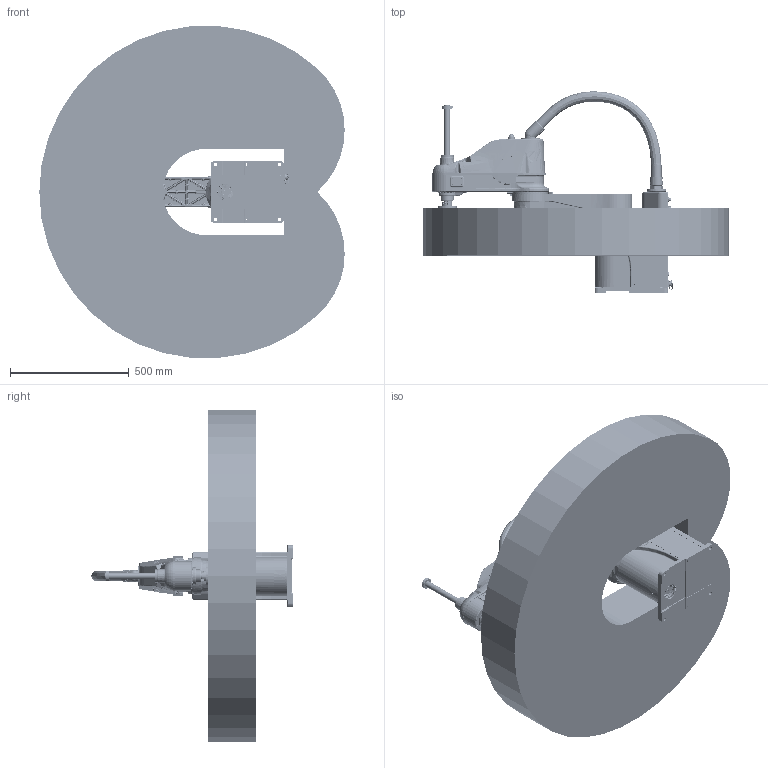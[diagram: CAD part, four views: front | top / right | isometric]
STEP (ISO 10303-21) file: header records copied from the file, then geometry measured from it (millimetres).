
FILE_DESCRIPTION (( 'STEP AP203' ), '1' );
FILE_NAME ('AH10-0700-0204-2000_V1.2.0.STEP', '2022-01-12T02:15:45', ( '' ), ( '' ), 'SwSTEP 2.0', 'SolidWorks 2017', '' );
FILE_SCHEMA (( 'CONFIG_CONTROL_DESIGN' ));
Products named in the file (7): AH10-0700-0204-2000-T6_V1.2.0; AH10-0700-0204-2000_V1.2.0; AH10-0700-0204-2000-T1_V1.2.0; AH10-0700-0204-2000-T3_V1.2.0; AH10-0700-0204-2000-T2_V1.2.0; AH10-0700-0204-2000-T4_V1.2.0; AH10-0700-0204-2000-T5_V1.2.0
Assembly tree (6 placements, depth 2):
  AH10-0700-0204-2000_V1.2.0
    AH10-0700-0204-2000-T1_V1.2.0
    AH10-0700-0204-2000-T3_V1.2.0
    AH10-0700-0204-2000-T2_V1.2.0
    AH10-0700-0204-2000-T4_V1.2.0
    AH10-0700-0204-2000-T5_V1.2.0
    AH10-0700-0204-2000-T6_V1.2.0
Bounding box: 1284.2 x 846.51 x 1396.09 mm (x, y, z)
Volume: 261631395.3 mm3; surface area: 7053154.1 mm2
Topology: 93 solids, 495 shells, 22822 faces, 63156 edges, 40660 vertices
Faces by surface type: plane 9840, cylinder 6750, bspline 3221, cone 1951, torus 617, sphere 443
Entity records: 934863 total; most frequent: CARTESIAN_POINT 384781, ORIENTED_EDGE 120167, DIRECTION 101484, EDGE_CURVE 62355, VERTEX_POINT 40638, AXIS2_PLACEMENT_3D 34637, VECTOR 32210, LINE 32210
